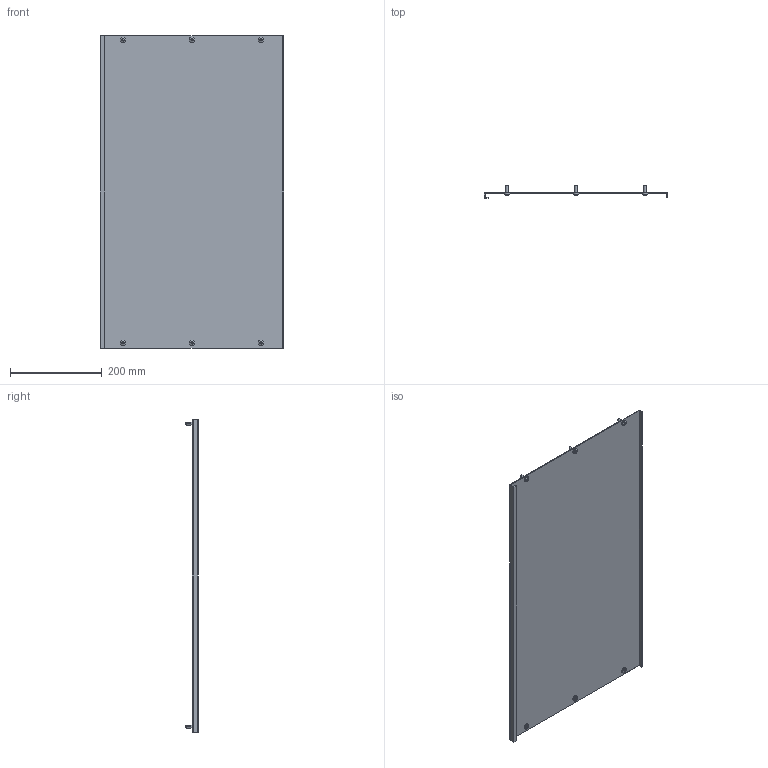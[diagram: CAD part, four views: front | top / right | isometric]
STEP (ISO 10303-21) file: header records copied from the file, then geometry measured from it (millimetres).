
FILE_DESCRIPTION (( 'STEP AP214' ), '1' );
FILE_NAME ('FO-00-PVS-040-080 Ïëàñòðîí ãëóõîé âíóòðåííèé 400õ800.STEP', '2025-09-30T07:43:38', ( '' ), ( '' ), 'SwSTEP 2.0', 'SolidWorks 2023', '' );
FILE_SCHEMA (( 'AUTOMOTIVE_DESIGN' ));
Length unit declared in the file: millimetre
Products named in the file (3): FO-00-PVS-040-080 Пластрон глухой внутренний 400х800; Винт M6x16 040 IEK
Assembly tree (3 placements, depth 2):
  FO-00-PVS-040-080 Пластрон глухой внутренний 400х800
    FO-00-PVS-040-080 Пластрон глухой внутренний 400х800
    Винт M6x16 040 IEK  x2
Bounding box: 398 x 27 x 679 mm (x, y, z)
Volume: 436110.8 mm3; surface area: 582674.7 mm2
Topology: 7 solids, 7 shells, 214 faces, 558 edges, 364 vertices
Faces by surface type: cylinder 132, plane 52, cone 18, bspline 12
Entity records: 4464 total; most frequent: CARTESIAN_POINT 1022, ORIENTED_EDGE 708, DIRECTION 692, EDGE_CURVE 354, AXIS2_PLACEMENT_3D 256, VERTEX_POINT 232, LINE 180, VECTOR 180
